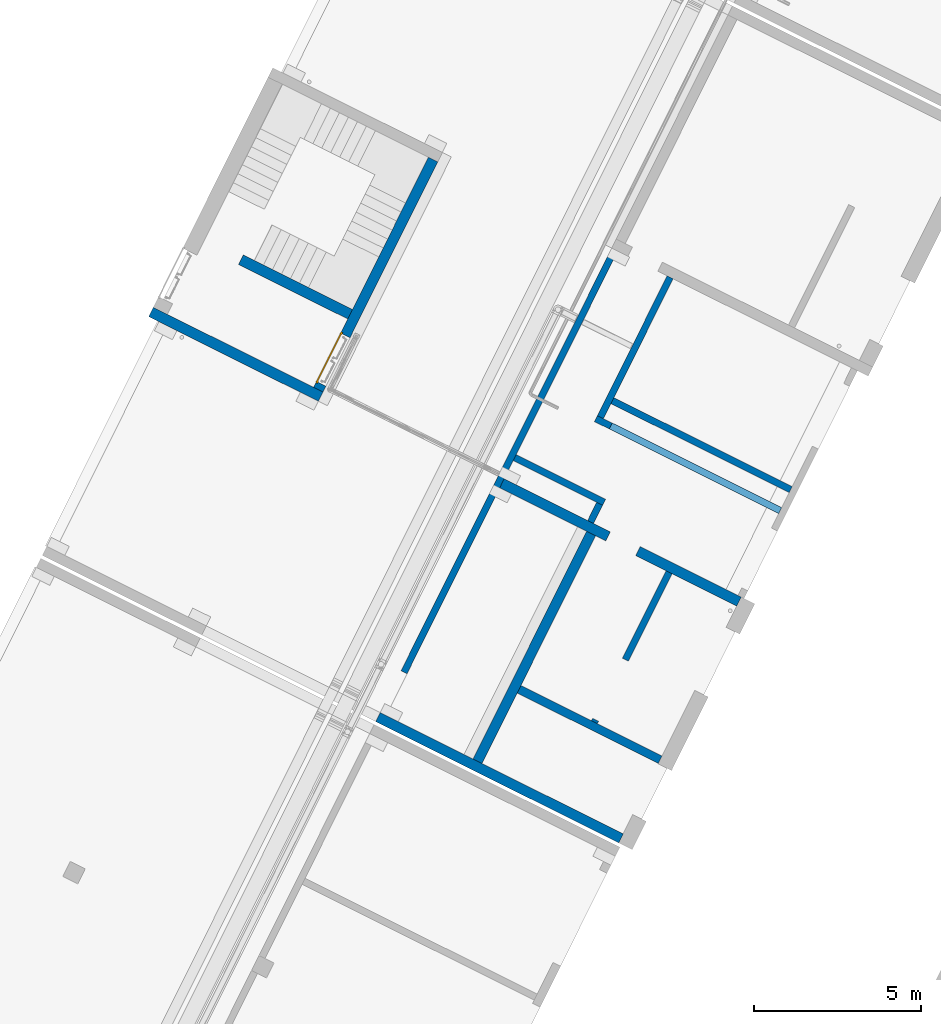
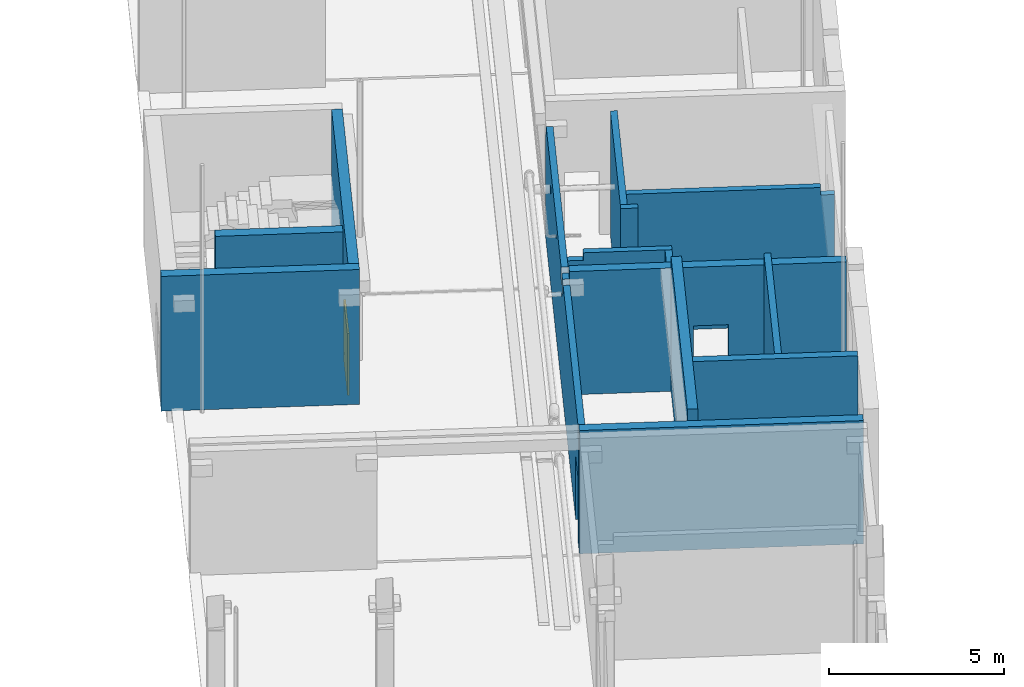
# One storey, part 12 of 91: 15 walls, 1 door, 7 openings.
"""IFC2X3 building model written with IfcOpenShell, lengths in metres."""

from ifc_helpers import new_model, entity, si_unit, converted_unit, derived_unit, direction, frame, frame_2d, origin, origin_2d_with_axis, place, context, subcontext, project, spatial, polyline, rectangle, circle, extrude, clip, bounded_halfspace, faceted_brep, source, transform, mapped, material, layer, layer_set, layer_usage, type_object, type_shapes, element, fill, save


model = new_model("IFC2X3")

# Units and contexts
model_context = context("Model", 3, precision=1e-05, world=origin(), true_north=direction((0.894925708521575, 0.446215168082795)))
context_of_model = context(None, 3, precision=1e-05, world=origin(), true_north=direction((0.894925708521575, 0.446215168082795)))
body_context = subcontext(model_context, "Body", "Model", "MODEL_VIEW")
ifc_project = project(units=[si_unit("LENGTHUNIT", "METRE"), si_unit("AREAUNIT", "SQUARE_METRE"), si_unit("VOLUMEUNIT", "CUBIC_METRE"), converted_unit("PLANEANGLEUNIT", "DEGREE", entity("IfcRatioMeasure", 0.0174532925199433), si_unit("PLANEANGLEUNIT", "RADIAN"), dimensions=[0, 0, 0, 0, 0, 0, 0]), si_unit("MASSUNIT", "GRAM", prefix="KILO"), si_unit("TIMEUNIT", "SECOND"), si_unit("FREQUENCYUNIT", "HERTZ"), si_unit("THERMODYNAMICTEMPERATUREUNIT", "DEGREE_CELSIUS"), derived_unit("THERMALTRANSMITTANCEUNIT", [(si_unit("MASSUNIT", "GRAM", prefix="KILO"), 1), (si_unit("THERMODYNAMICTEMPERATUREUNIT", "KELVIN"), -1), (si_unit("TIMEUNIT", "SECOND"), -3)]), derived_unit("VOLUMETRICFLOWRATEUNIT", [(si_unit("LENGTHUNIT", "METRE"), 3), (si_unit("TIMEUNIT", "SECOND"), -1)]), si_unit("ELECTRICCURRENTUNIT", "AMPERE"), si_unit("ELECTRICVOLTAGEUNIT", "VOLT"), si_unit("POWERUNIT", "WATT"), si_unit("FORCEUNIT", "NEWTON", prefix="KILO"), si_unit("ILLUMINANCEUNIT", "LUX"), si_unit("LUMINOUSFLUXUNIT", "LUMEN"), si_unit("LUMINOUSINTENSITYUNIT", "CANDELA"), si_unit("PRESSUREUNIT", "PASCAL")], contexts=[model_context, context_of_model])

# Site, building, storey
site_placement = place(None, frame((218.228324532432, 584.720189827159, 0.0), z_axis=(0.0, 0.0, 1.0), x_axis=(0.446215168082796, 0.894925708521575, 0.0)))
site = spatial("IfcSite", under=ifc_project, at=site_placement, Name="Default", CompositionType="ELEMENT")
building_placement = place(site_placement, origin())
building = spatial("IfcBuilding", under=site, at=building_placement, CompositionType="ELEMENT")
storey_placement = place(building_placement, origin())
storey = spatial("IfcBuildingStorey", under=building, at=storey_placement, Name="0 - Piano Terra", CompositionType="ELEMENT", Elevation=0.0)

# Wall
ifc_material_1 = material(Name="Default - Calcestruzzo")
ifc_layer_1 = layer(ifc_material_1, 0.3)
ifc_material_2 = material(Name="Intonaco - Bianco")
ifc_layer_2 = layer(ifc_material_2, 0.01)
ifc_layer_set_1 = layer_set([ifc_layer_1, ifc_layer_2], Name="Muro di base:Setto CA rivestito int - 31 cm")
ifc_layer_usage_1 = layer_usage(ifc_layer_set_1, "AXIS2", "NEGATIVE", 0.155)
wall_type_1 = type_object("IfcWallType", Name="Muro di base:Setto CA rivestito int - 31 cm", PredefinedType="STANDARD", material=ifc_layer_set_1)
wall_1_placement = place(storey_placement, frame((-4.83078502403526, 0.798921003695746, 0.0), z_axis=(0.0, 0.0, 1.0), x_axis=(0.0, 1.0, 0.0)))
element("IfcWallStandardCase", 1, at=wall_1_placement, inside=storey, type_object=wall_type_1, material=ifc_layer_usage_1, Name="Muro di base:Setto CA rivestito int - 31 cm", ObjectType="Muro di base:Setto CA rivestito int - 31 cm", context=body_context, shape_type="SweptSolid", body=[
    extrude(rectangle(XDim=5.65999999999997, YDim=0.31, at=frame_2d((2.82999999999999, 0.0), x_axis=(-1.0, 0.0))), origin(), (0.0, 0.0, 1.0), 4.69),
])

# Wall, opening, door
ifc_layer_usage_2 = layer_usage(ifc_layer_set_1, "AXIS2", "NEGATIVE", 0.155)
wall_2_placement = place(storey_placement, frame((3.004214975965, 0.953921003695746, 0.0), z_axis=(0.0, 0.0, 1.0), x_axis=(-1.0, 0.0, 0.0)))
wall_2 = element("IfcWallStandardCase", 2, at=wall_2_placement, inside=storey, type_object=wall_type_1, material=ifc_layer_usage_2, Name="Muro di base:Setto CA rivestito int - 31 cm", ObjectType="Muro di base:Setto CA rivestito int - 31 cm", context=body_context, shape_type="SweptSolid", body=[
    extrude(rectangle(XDim=7.68000000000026, YDim=0.31, at=frame_2d((3.84000000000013, 0.0), x_axis=(-1.0, 0.0))), origin(), (0.0, 0.0, 1.0), 4.69),
])
opening_1_placement = place(wall_2_placement, frame((7.53000000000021, 0.455, 0.0), z_axis=(0.0, 0.0, 1.0), x_axis=(-1.0, 0.0, 0.0)))
opening_1 = element("IfcOpeningElement", 3, at=opening_1_placement, cuts=wall_2, Name="Muro di base:Setto CA rivestito int - 31 cm", ObjectType="Opening", context=body_context, shape_type="Brep", body=[
    faceted_brep([(1.6599999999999, 0.0, 2.11000000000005), (1.6599999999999, 0.560000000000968, 2.11000000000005), (0.0399999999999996, 0.560000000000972, 2.11000000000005), (0.0399999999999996, 0.0, 2.11000000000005), (1.6599999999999, 0.91000000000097, 0.0), (1.6599999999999, 0.610000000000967, 0.0), (1.6999999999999, 0.610000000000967, 0.0), (1.6999999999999, 0.560000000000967, 0.0), (1.6599999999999, 0.560000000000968, 0.0), (1.6599999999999, 0.0, 0.0), (0.0399999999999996, 0.0, 0.0), (0.0399999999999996, 0.560000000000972, 0.0), (0.0, 0.560000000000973, 0.0), (0.0, 0.610000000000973, 0.0), (0.0399999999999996, 0.610000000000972, 0.0), (0.0399999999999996, 0.91000000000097, 0.0), (1.6599999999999, 0.91000000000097, 2.11000000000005), (0.0399999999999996, 0.91000000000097, 2.11000000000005), (1.6599999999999, 0.610000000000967, 2.11000000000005), (0.0, 0.610000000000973, 2.15000000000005), (1.6999999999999, 0.610000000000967, 2.15000000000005), (0.0399999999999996, 0.610000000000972, 2.11000000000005), (1.6999999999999, 0.560000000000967, 2.15000000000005), (0.0, 0.560000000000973, 2.15000000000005)], [[[0, 1, 2, 3]], [[4, 5, 6, 7, 8, 9, 10, 11, 12, 13, 14, 15]], [[16, 4, 15, 17]], [[3, 2, 11, 10]], [[3, 10, 9, 0]], [[16, 18, 5, 4]], [[13, 19, 20, 6, 5, 18, 21, 14]], [[11, 2, 1, 8, 7, 22, 23, 12]], [[12, 23, 19, 13]], [[19, 23, 22, 20]], [[20, 22, 7, 6]], [[9, 8, 1, 0]], [[15, 14, 21, 17]], [[17, 21, 18, 16]]]),
])
ifc_material_3 = material(Name="Alluminio")
door_style = type_object("IfcDoorStyle", Name="180x210", ConstructionType="NOTDEFINED", OperationType="DOUBLE_DOOR_SINGLE_SWING", ParameterTakesPrecedence=False, Sizeable=False, material=ifc_material_3)
shared_shape = source(origin(), body_context, "Body", "Brep", [
    faceted_brep([(0.0499999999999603, 0.620000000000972, 0.0), (0.0499999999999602, 0.580000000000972, 0.0), (0.0649999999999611, 0.580000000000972, 0.0), (0.0649999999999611, 0.560000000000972, 0.0), (0.0, 0.560000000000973, 0.0), (0.0, 0.620000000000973, 0.0), (0.0499999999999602, 0.620000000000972, 2.10000000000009), (0.0499999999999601, 0.580000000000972, 2.10000000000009), (1.64999999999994, 0.580000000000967, 2.10000000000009), (1.64999999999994, 0.580000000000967, 0.0), (1.63499999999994, 0.580000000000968, 0.0), (1.63499999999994, 0.580000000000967, 2.08500000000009), (0.0649999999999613, 0.580000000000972, 2.08500000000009), (0.0649999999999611, 0.560000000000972, 2.08500000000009), (1.63499999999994, 0.560000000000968, 2.08500000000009), (1.63499999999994, 0.560000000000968, 0.0), (1.6999999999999, 0.560000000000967, 0.0), (1.6999999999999, 0.560000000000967, 2.15000000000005), (0.0, 0.560000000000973, 2.15000000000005), (0.0, 0.620000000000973, 2.15000000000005), (1.6999999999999, 0.620000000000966, 2.15000000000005), (1.6999999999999, 0.620000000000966, 0.0), (1.64999999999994, 0.620000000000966, 0.0), (1.64999999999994, 0.620000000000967, 2.10000000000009)], [[[0, 1, 2, 3, 4, 5]], [[1, 0, 6, 7]], [[2, 1, 7, 8, 9, 10, 11, 12]], [[3, 2, 12, 13]], [[4, 3, 13, 14, 15, 16, 17, 18]], [[5, 4, 18, 19]], [[0, 5, 19, 20, 21, 22, 23, 6]], [[8, 23, 22, 9]], [[22, 21, 16, 15, 10, 9]], [[14, 11, 10, 15]], [[20, 17, 16, 21]], [[7, 6, 23, 8]], [[13, 12, 11, 14]], [[19, 18, 17, 20]]]),
    faceted_brep([(0.849999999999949, 0.62000000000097, 2.1), (0.84999999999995, 0.62000000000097, 0.0), (0.0499999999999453, 0.620000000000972, 0.0), (0.0499999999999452, 0.620000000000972, 2.1), (0.849999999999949, 0.58000000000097, 2.1), (0.049999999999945, 0.580000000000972, 2.1), (0.0499999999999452, 0.580000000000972, 0.0), (0.849999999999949, 0.58000000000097, 0.0)], [[[0, 1, 2, 3]], [[4, 5, 6, 7]], [[1, 0, 4, 7]], [[2, 1, 7, 6]], [[3, 2, 6, 5]], [[0, 3, 5, 4]]]),
    faceted_brep([(1.64999999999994, 0.620000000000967, 0.0), (0.84999999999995, 0.62000000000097, 0.0), (0.849999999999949, 0.62000000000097, 2.1), (1.64999999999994, 0.620000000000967, 2.1), (1.64999999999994, 0.580000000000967, 0.0), (1.64999999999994, 0.580000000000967, 2.1), (0.849999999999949, 0.58000000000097, 2.1), (0.849999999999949, 0.58000000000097, 0.0)], [[[0, 1, 2, 3]], [[4, 5, 6, 7]], [[1, 0, 4, 7]], [[2, 1, 7, 6]], [[3, 2, 6, 5]], [[0, 3, 5, 4]]]),
    faceted_brep([(0.864999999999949, 0.622999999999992, 2.1), (0.834999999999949, 0.622999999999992, 2.1), (0.834999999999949, 0.619999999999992, 2.1), (0.864999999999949, 0.619999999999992, 2.1), (0.864999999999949, 0.622999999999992, 0.0), (0.864999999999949, 0.619999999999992, 0.0), (0.834999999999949, 0.619999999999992, 0.0), (0.834999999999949, 0.622999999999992, 0.0)], [[[0, 1, 2, 3]], [[4, 5, 6, 7]], [[1, 0, 4, 7]], [[2, 1, 7, 6]], [[3, 2, 6, 5]], [[0, 3, 5, 4]]]),
    faceted_brep([(1.6599999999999, 0.630000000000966, 1.85000000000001), (1.64999999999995, 0.630000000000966, 1.85000000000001), (1.63499999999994, 0.619999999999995, 1.85000000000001), (1.6599999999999, 0.619999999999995, 1.85000000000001), (1.6599999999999, 0.630000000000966, 1.80000000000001), (1.64999999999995, 0.630000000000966, 1.80000000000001), (1.63499999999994, 0.619999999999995, 1.80000000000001), (1.6599999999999, 0.619999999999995, 1.80000000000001)], [[[0, 1, 2, 3]], [[1, 0, 4, 5]], [[2, 1, 5, 6]], [[3, 2, 6, 7]], [[0, 3, 7, 4]], [[4, 7, 6, 5]]]),
    faceted_brep([(0.0399999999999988, 0.630000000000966, 1.80000000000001), (0.0499999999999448, 0.630000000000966, 1.80000000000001), (0.0649999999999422, 0.620000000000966, 1.80000000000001), (0.0399999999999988, 0.620000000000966, 1.80000000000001), (0.0399999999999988, 0.620000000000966, 1.85000000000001), (0.0399999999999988, 0.630000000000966, 1.85000000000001), (0.0649999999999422, 0.620000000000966, 1.85000000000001), (0.0499999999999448, 0.630000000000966, 1.85000000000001)], [[[0, 1, 2, 3]], [[4, 5, 0, 3]], [[6, 4, 3, 2]], [[7, 6, 2, 1]], [[5, 7, 1, 0]], [[5, 4, 6, 7]]]),
    faceted_brep([(1.6599999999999, 0.630000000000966, 1.80000000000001), (1.64999999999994, 0.630000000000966, 1.80000000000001), (1.64999999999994, 0.620000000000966, 1.80000000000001), (1.6599999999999, 0.620000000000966, 1.80000000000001), (1.6599999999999, 0.630000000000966, 1.75000000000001), (1.64999999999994, 0.630000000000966, 1.75000000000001), (1.64999999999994, 0.620000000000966, 1.75000000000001), (1.6599999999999, 0.620000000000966, 1.75000000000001)], [[[0, 1, 2, 3]], [[1, 0, 4, 5]], [[2, 1, 5, 6]], [[3, 2, 6, 7]], [[0, 3, 7, 4]], [[4, 7, 6, 5]]]),
    faceted_brep([(0.0499999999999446, 0.630000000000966, 1.75000000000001), (0.0499999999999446, 0.620000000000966, 1.75000000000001), (0.04, 0.620000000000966, 1.75000000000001), (0.04, 0.630000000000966, 1.75000000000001), (0.04, 0.630000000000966, 1.80000000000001), (0.0499999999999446, 0.630000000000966, 1.80000000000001), (0.04, 0.620000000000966, 1.80000000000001), (0.0499999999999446, 0.620000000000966, 1.80000000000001)], [[[0, 1, 2, 3]], [[4, 5, 0, 3]], [[6, 4, 3, 2]], [[7, 6, 2, 1]], [[5, 7, 1, 0]], [[5, 4, 6, 7]]]),
    faceted_brep([(0.0399999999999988, 0.620000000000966, 0.349999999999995), (0.0649999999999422, 0.620000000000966, 0.349999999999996), (0.0499999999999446, 0.630000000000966, 0.349999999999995), (0.0399999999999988, 0.630000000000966, 0.349999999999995), (0.0399999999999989, 0.620000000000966, 0.299999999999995), (0.0649999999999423, 0.620000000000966, 0.299999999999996), (0.0499999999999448, 0.630000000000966, 0.299999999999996), (0.0399999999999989, 0.630000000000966, 0.299999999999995)], [[[0, 1, 2, 3]], [[1, 0, 4, 5]], [[2, 1, 5, 6]], [[3, 2, 6, 7]], [[0, 3, 7, 4]], [[4, 7, 6, 5]]]),
    faceted_brep([(1.6599999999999, 0.630000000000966, 0.300000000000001), (1.6599999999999, 0.619999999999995, 0.300000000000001), (1.63499999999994, 0.619999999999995, 0.300000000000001), (1.64999999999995, 0.630000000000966, 0.300000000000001), (1.64999999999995, 0.630000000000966, 0.350000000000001), (1.6599999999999, 0.630000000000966, 0.350000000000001), (1.63499999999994, 0.619999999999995, 0.350000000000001), (1.6599999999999, 0.619999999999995, 0.350000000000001)], [[[0, 1, 2, 3]], [[4, 5, 0, 3]], [[6, 4, 3, 2]], [[7, 6, 2, 1]], [[5, 7, 1, 0]], [[5, 4, 6, 7]]]),
    faceted_brep([(1.64999999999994, 0.630000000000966, 0.300000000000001), (1.64999999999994, 0.620000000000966, 0.300000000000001), (1.6599999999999, 0.620000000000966, 0.300000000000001), (1.6599999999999, 0.630000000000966, 0.300000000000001), (1.64999999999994, 0.630000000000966, 0.250000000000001), (1.64999999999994, 0.620000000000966, 0.250000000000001), (1.6599999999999, 0.620000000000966, 0.250000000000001), (1.6599999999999, 0.630000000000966, 0.250000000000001)], [[[0, 1, 2, 3]], [[1, 0, 4, 5]], [[2, 1, 5, 6]], [[3, 2, 6, 7]], [[0, 3, 7, 4]], [[4, 7, 6, 5]]]),
    faceted_brep([(0.049999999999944, 0.630000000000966, 0.249999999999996), (0.049999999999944, 0.620000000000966, 0.249999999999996), (0.039999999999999, 0.620000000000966, 0.249999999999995), (0.039999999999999, 0.630000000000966, 0.249999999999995), (0.0399999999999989, 0.630000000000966, 0.299999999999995), (0.0499999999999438, 0.630000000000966, 0.299999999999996), (0.0399999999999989, 0.620000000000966, 0.299999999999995), (0.0499999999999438, 0.620000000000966, 0.299999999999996)], [[[0, 1, 2, 3]], [[4, 5, 0, 3]], [[6, 4, 3, 2]], [[7, 6, 2, 1]], [[5, 7, 1, 0]], [[5, 4, 6, 7]]]),
])
type_shapes(door_style, [shared_shape])
door_placement = place(storey_placement, frame((-4.52578502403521, 0.498921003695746, 0.0)))
door = element("IfcDoor", 4, at=door_placement, inside=storey, type_object=door_style, material=ifc_material_3, Name="120-180x210 Uscita di sicurezza doppia:180x210", ObjectType="180x210", OverallHeight=2.15000000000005, OverallWidth=1.6999999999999, context=body_context, shape_type="MappedRepresentation", body=[
    mapped(shared_shape, transform((0.0, 0.0, 0.0), scale=1.0)),
])
fill(opening_1, door)

# Wall, opening
ifc_layer_3 = layer(ifc_material_1, 0.3)
ifc_layer_set_2 = layer_set([ifc_layer_3], Name="Muro di base:Setto CA - 30 cm")
ifc_layer_usage_3 = layer_usage(ifc_layer_set_2, "AXIS2", "NEGATIVE", 0.15)
wall_type_2 = type_object("IfcWallType", Name="Muro di base:Setto CA - 30 cm", PredefinedType="STANDARD", material=ifc_layer_set_2)
wall_3_placement = place(storey_placement, frame((-4.73437167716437, -5.2010789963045, 0.0), z_axis=(0.0, 0.0, 1.0), x_axis=(0.0, -1.0, 0.0)))
wall_3 = element("IfcWallStandardCase", 5, at=wall_3_placement, inside=storey, type_object=wall_type_2, material=ifc_layer_usage_3, Name="Muro di base:Setto CA - 30 cm", ObjectType="Muro di base:Setto CA - 30 cm", context=body_context, shape_type="Clipping", body=[
    clip(extrude(rectangle(XDim=7.91, YDim=0.3, at=frame_2d((3.955, 0.0), x_axis=(-1.0, 0.0))), origin(), (0.0, 0.0, 1.0), 4.29), bounded_halfspace(frame((0.0, -0.15, 4.29), z_axis=(0.0, 0.0, -1.0), x_axis=(-1.0, 0.0, 0.0)), True, frame((0.0, -0.15, 4.29)), polyline([(0.0, 0.0), (2.89999999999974, 0.0), (7.91, 0.0), (7.91, 0.150000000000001), (7.91, 0.3), (0.0, 0.3), (0.0, 0.0)]))),
])
opening_2_placement = place(wall_3_placement, frame((4.53999999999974, -1.674, 0.0)))
element("IfcOpeningElement", 6, at=opening_2_placement, cuts=wall_3, Name="Muro di base:Setto CA - 30 cm", ObjectType="Opening", context=body_context, shape_type="SweptSolid", body=[
    extrude(rectangle(XDim=2.25, YDim=1.0, at=frame_2d((0.0, 0.0), x_axis=(0.0, 1.0))), frame((-0.5, 0.0, 1.125), z_axis=(0.0, 1.0, 0.0), x_axis=(1.0, 0.0, 0.0)), (0.0, 0.0, 1.0), 3.048),
])

# Walls
ifc_layer_usage_4 = layer_usage(ifc_layer_set_2, "AXIS2", "NEGATIVE", 0.15)
wall_4_placement = place(storey_placement, frame((-12.4843716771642, -8.25107899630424, 0.0)))
element("IfcWallStandardCase", 7, at=wall_4_placement, inside=storey, type_object=wall_type_2, material=ifc_layer_usage_4, Name="Muro di base:Setto CA - 30 cm", ObjectType="Muro di base:Setto CA - 30 cm", context=body_context, shape_type="SweptSolid", body=[
    extrude(rectangle(XDim=7.59999999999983, YDim=0.299999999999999, at=frame_2d((3.79999999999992, 0.0), x_axis=(-1.0, 0.0))), origin(), (0.0, 0.0, 1.0), 4.69),
])
ifc_layer_usage_5 = layer_usage(ifc_layer_set_2, "AXIS2", "NEGATIVE", 0.15)
wall_5_placement = place(storey_placement, frame((-12.6343716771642, -5.00107899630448, 0.0), z_axis=(0.0, 0.0, 1.0), x_axis=(0.0, -1.0, 0.0)))
element("IfcWallStandardCase", 8, at=wall_5_placement, inside=storey, type_object=wall_type_2, material=ifc_layer_usage_5, Name="Muro di base:Setto CA - 30 cm", ObjectType="Muro di base:Setto CA - 30 cm", context=body_context, shape_type="Clipping", body=[
    clip(extrude(rectangle(XDim=8.11, YDim=0.300000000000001, at=frame_2d((4.055, 0.0), x_axis=(-1.0, 0.0))), origin(), (0.0, 0.0, 1.0), 4.29), bounded_halfspace(frame((0.0, -0.149999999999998, 4.29), z_axis=(0.0, 0.0, -1.0), x_axis=(-1.0, 0.0, 0.0)), True, frame((0.0, -0.149999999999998, 4.29)), polyline([(0.0, 0.0), (8.11, 0.0), (8.11, 0.299999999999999), (3.09999999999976, 0.299999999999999), (0.0, 0.299999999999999), (0.0, 0.0)]))),
])

# Wall, opening
ifc_material_4 = material(Name="Sabbia e Calcestruzzo")
ifc_layer_4 = layer(ifc_material_4, 0.2)
ifc_layer_set_3 = layer_set([ifc_layer_4], Name="Muro di base:Blocchetti - 20 cm")
ifc_layer_usage_6 = layer_usage(ifc_layer_set_3, "AXIS2", "NEGATIVE", 0.1)
wall_type_3 = type_object("IfcWallType", Name="Muro di base:Blocchetti - 20 cm", PredefinedType="STANDARD", material=ifc_layer_set_3)
wall_6_placement = place(storey_placement, frame((-9.88377059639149, -10.8510789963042, 0.0)))
wall_6 = element("IfcWallStandardCase", 9, at=wall_6_placement, inside=storey, type_object=wall_type_3, material=ifc_layer_usage_6, Name="Muro di base:Blocchetti - 20 cm", ObjectType="Muro di base:Blocchetti - 20 cm", context=body_context, shape_type="SweptSolid", body=[
    extrude(rectangle(XDim=4.99939891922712, YDim=0.199999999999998, at=frame_2d((2.49969945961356, 0.0), x_axis=(-1.0, 0.0))), origin(), (0.0, 0.0, 1.0), 4.69),
])
opening_3_placement = place(wall_6_placement, frame((0.0800000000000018, -1.42400000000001, 0.0)))
element("IfcOpeningElement", 10, at=opening_3_placement, cuts=wall_6, Name="Muro di base:Blocchetti - 20 cm", ObjectType="Opening", context=body_context, shape_type="SweptSolid", body=[
    extrude(rectangle(XDim=3.2, YDim=2.0, at=origin_2d_with_axis()), frame((1.0, 0.0, 1.6), z_axis=(0.0, 1.0, 0.0), x_axis=(0.0, 0.0, -1.0)), (0.0, 0.0, 1.0), 3.048),
])

# Walls
ifc_layer_usage_7 = layer_usage(ifc_layer_set_3, "AXIS2", "NEGATIVE", 0.1)
wall_7_placement = place(storey_placement, frame((-1.05167493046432, -13.0010789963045, 0.0), z_axis=(0.0, 0.0, 1.0), x_axis=(0.0, 1.0, 0.0)))
element("IfcWallStandardCase", 11, at=wall_7_placement, inside=storey, type_object=wall_type_3, material=ifc_layer_usage_7, Name="Muro di base:Blocchetti - 20 cm", ObjectType="Muro di base:Blocchetti - 20 cm", context=body_context, shape_type="Clipping", body=[
    clip(clip(extrude(rectangle(XDim=5.95045960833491, YDim=0.2, at=frame_2d((2.97522980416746, 0.0), x_axis=(-1.0, 0.0))), origin(), (0.0, 0.0, 1.0), 4.29), bounded_halfspace(frame((0.0, -0.1, 4.03), z_axis=(0.0, 0.0, -1.0), x_axis=(-1.0, 0.0, 0.0)), True, frame((0.0, -0.1, 4.03)), polyline([(0.0, 0.0), (0.399999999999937, 0.0), (0.399999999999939, 0.2), (0.0, 0.2), (0.0, 0.0)]))), bounded_halfspace(frame((0.399999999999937, -0.1, 4.29), z_axis=(0.0, 0.0, -1.0), x_axis=(1.0, 0.0, 0.0)), True, frame((0.399999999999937, -0.1, 4.29)), polyline([(0.0, 0.0), (5.55045960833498, 0.0), (5.55045960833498, 0.200000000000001), (0.0, 0.2), (0.0, 0.0)]))),
])
ifc_layer_usage_8 = layer_usage(ifc_layer_set_3, "AXIS2", "NEGATIVE", 0.1)
wall_8_placement = place(storey_placement, frame((-1.75122096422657, -13.0010789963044, 0.0), z_axis=(0.0, 0.0, 1.0), x_axis=(0.0, 1.0, 0.0)))
element("IfcWallStandardCase", 12, at=wall_8_placement, inside=storey, type_object=wall_type_3, material=ifc_layer_usage_8, Name="Muro di base:Blocchetti - 20 cm", ObjectType="Muro di base:Blocchetti - 20 cm", context=body_context, shape_type="SweptSolid", body=[
    extrude(rectangle(XDim=5.65484559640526, YDim=0.2, at=frame_2d((2.82742279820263, 0.0), x_axis=(-1.0, 0.0))), origin(), (0.0, 0.0, 1.0), 0.66),
])
ifc_layer_usage_9 = layer_usage(ifc_layer_set_3, "AXIS2", "NEGATIVE", 0.1)
wall_9_placement = place(storey_placement, frame((-3.87683558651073, -8.18564778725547, 0.0), z_axis=(0.0, 0.0, 1.0), x_axis=(0.0, 1.0, 0.0)))
element("IfcWallStandardCase", 13, at=wall_9_placement, inside=storey, type_object=wall_type_3, material=ifc_layer_usage_9, Name="Muro di base:Blocchetti - 20 cm", ObjectType="Muro di base:Blocchetti - 20 cm", context=body_context, shape_type="Clipping", body=[
    clip(clip(extrude(rectangle(XDim=2.98456879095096, YDim=0.2, at=frame_2d((1.49228439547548, 0.0), x_axis=(-1.0, 0.0))), origin(), (0.0, 0.0, 1.0), 4.29), bounded_halfspace(frame((2.53456879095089, 0.1, 4.03), z_axis=(0.0, 0.0, -1.0), x_axis=(0.0, -1.0, 0.0)), True, frame((2.53456879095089, 0.1, 4.03), z_axis=(0.0, 0.0, -1.0), x_axis=(0.0, -1.0, 0.0)), polyline([(0.0, 0.0), (0.0, -0.450000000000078), (0.199999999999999, -0.450000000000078), (0.2, 0.0), (0.0, 0.0)]))), bounded_halfspace(frame((2.53456879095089, -0.1, 4.03), z_axis=(-1.0, 0.0, 0.0), x_axis=(0.0, -1.0, 0.0)), True, frame((2.53456879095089, -0.1, 4.03), z_axis=(-1.0, 0.0, 0.0), x_axis=(0.0, -1.0, 0.0)), polyline([(0.0, 0.0), (0.0, 0.260000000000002), (-0.2, 0.260000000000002), (-0.2, 0.0), (0.0, 0.0)]))),
])
ifc_layer_usage_10 = layer_usage(ifc_layer_set_3, "AXIS2", "NEGATIVE", 0.1)
wall_10_placement = place(storey_placement, frame((-1.65122096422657, -6.95061938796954, 0.0)))
element("IfcWallStandardCase", 14, at=wall_10_placement, inside=storey, type_object=wall_type_3, material=ifc_layer_usage_10, Name="Muro di base:Blocchetti - 20 cm", ObjectType="Muro di base:Blocchetti - 20 cm", context=body_context, shape_type="SweptSolid", body=[
    extrude(rectangle(XDim=4.66543594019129, YDim=0.2, at=frame_2d((2.33271797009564, -6.93889390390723e-17), x_axis=(-1.0, 0.0))), origin(), (0.0, 0.0, 1.0), 4.29),
])
ifc_layer_usage_11 = layer_usage(ifc_layer_set_3, "AXIS2", "NEGATIVE", 0.1)
wall_11_placement = place(storey_placement, frame((-4.58437167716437, -8.08564778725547, 0.0)))
element("IfcWallStandardCase", 15, at=wall_11_placement, inside=storey, type_object=wall_type_3, material=ifc_layer_usage_11, Name="Muro di base:Blocchetti - 20 cm", ObjectType="Muro di base:Blocchetti - 20 cm", context=body_context, shape_type="Clipping", body=[
    clip(extrude(rectangle(XDim=0.607536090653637, YDim=0.2, at=frame_2d((0.303768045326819, 4.44089209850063e-16), x_axis=(-1.0, 0.0))), origin(), (0.0, 0.0, 1.0), 4.29), bounded_halfspace(frame((0.0, -0.1, 4.29), z_axis=(0.0, 0.0, -1.0), x_axis=(0.0, 1.0, 0.0)), True, frame((0.0, -0.1, 4.29)), polyline([(0.0, 0.0), (0.607536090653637, 0.0), (0.607536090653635, 0.200000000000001), (0.0, 0.2), (0.0, 0.0)]))),
])
ifc_layer_usage_12 = layer_usage(ifc_layer_set_3, "AXIS2", "NEGATIVE", 0.1)
wall_12_placement = place(storey_placement, frame((-1.75122096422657, -7.34623339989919, 0.0), z_axis=(0.0, 0.0, 1.0), x_axis=(0.0, 1.0, 0.0)))
element("IfcWallStandardCase", 16, at=wall_12_placement, inside=storey, type_object=wall_type_3, material=ifc_layer_usage_12, Name="Muro di base:Blocchetti - 20 cm", ObjectType="Muro di base:Blocchetti - 20 cm", context=body_context, shape_type="Clipping", body=[
    clip(extrude(rectangle(XDim=0.49561401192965, YDim=0.2, at=frame_2d((0.247807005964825, 0.0), x_axis=(-1.0, 0.0))), origin(), (0.0, 0.0, 1.0), 4.29), bounded_halfspace(frame((0.0, -0.1, 4.29), z_axis=(0.0, 0.0, -1.0), x_axis=(1.0, 0.0, 0.0)), True, frame((0.0, -0.1, 4.29)), polyline([(0.0, 0.0), (0.29561401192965, 0.0), (0.49561401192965, 0.0), (0.49561401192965, 0.199999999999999), (0.0, 0.2), (0.0, 0.0)]))),
])

# Wall, openings
ifc_layer_usage_13 = layer_usage(ifc_layer_set_3, "AXIS2", "NEGATIVE", 0.1)
wall_13_placement = place(storey_placement, frame((-12.4843716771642, -5.10107899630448, 0.0)))
wall_13 = element("IfcWallStandardCase", 17, at=wall_13_placement, inside=storey, type_object=wall_type_3, material=ifc_layer_usage_13, Name="Muro di base:Blocchetti - 20 cm", ObjectType="Muro di base:Blocchetti - 20 cm", context=body_context, shape_type="Clipping", body=[
    clip(clip(clip(clip(clip(clip(extrude(rectangle(XDim=15.4985866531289, YDim=0.2, at=frame_2d((7.74929332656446, 0.0), x_axis=(-1.0, 0.0))), origin(), (0.0, 0.0, 1.0), 4.03), bounded_halfspace(frame((0.300000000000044, -0.1, 3.63), z_axis=(0.0, 0.0, -1.0), x_axis=(1.0, 0.0, 0.0)), True, frame((0.300000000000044, -0.1, 3.63), z_axis=(0.0, 0.0, -1.0), x_axis=(1.0, 0.0, 0.0)), polyline([(0.0, 0.0), (-0.300000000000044, 0.0), (-0.300000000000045, -0.2), (0.0, -0.199999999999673), (0.0, 0.0)]))), bounded_halfspace(frame((0.300000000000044, 0.099999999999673, 3.63), z_axis=(1.0, 0.0, 0.0), x_axis=(0.0, 0.0, -1.0)), True, frame((0.300000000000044, 0.099999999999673, 3.63), z_axis=(1.0, 0.0, 0.0), x_axis=(0.0, 0.0, -1.0)), polyline([(0.0, 0.0), (-0.4, 0.0), (-0.4, -0.199999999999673), (0.0, -0.199999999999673), (0.0, 0.0)]))), bounded_halfspace(frame((7.29999999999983, 0.099999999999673, 3.63), z_axis=(0.0, 0.0, -1.0), x_axis=(1.0, 0.0, 0.0)), True, frame((7.29999999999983, 0.099999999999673, 3.63), z_axis=(0.0, 0.0, -1.0), x_axis=(1.0, 0.0, 0.0)), polyline([(0.0, 0.0), (0.300000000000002, 0.0), (0.300000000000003, 0.199999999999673), (0.0, 0.199999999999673), (0.0, 0.0)]))), bounded_halfspace(frame((7.89999999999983, 0.099999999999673, 3.63), z_axis=(0.0, 0.0, -1.0), x_axis=(1.0, 0.0, 0.0)), True, frame((7.89999999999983, 0.099999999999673, 3.63), z_axis=(0.0, 0.0, -1.0), x_axis=(1.0, 0.0, 0.0)), polyline([(0.0, 0.0), (0.300000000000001, 0.0), (0.300000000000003, 0.199999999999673), (0.0, 0.199999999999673), (0.0, 0.0)]))), bounded_halfspace(frame((15.1985866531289, 0.099999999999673, 3.63), z_axis=(0.0, 0.0, -1.0), x_axis=(1.0, 0.0, 0.0)), True, frame((15.1985866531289, 0.099999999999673, 3.63), z_axis=(0.0, 0.0, -1.0), x_axis=(1.0, 0.0, 0.0)), polyline([(0.0, 0.0), (0.300000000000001, 0.0), (0.300000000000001, 0.199999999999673), (0.0, 0.199999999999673), (0.0, 0.0)]))), bounded_halfspace(frame((15.1985866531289, -0.1, 3.63), z_axis=(-1.0, 0.0, 0.0), x_axis=(0.0, 0.0, -1.0)), True, frame((15.1985866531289, -0.1, 3.63), z_axis=(-1.0, 0.0, 0.0), x_axis=(0.0, 0.0, -1.0)), polyline([(0.0, 0.0), (-0.4, 0.0), (-0.4, -0.2), (0.0, -0.199999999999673), (0.0, 0.0)]))),
])
opening_4_placement = place(wall_13_placement, frame((0.299999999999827, -1.624, 0.0)))
element("IfcOpeningElement", 18, at=opening_4_placement, cuts=wall_13, Name="Muro di base:Blocchetti - 20 cm", ObjectType="Opening", context=body_context, shape_type="SweptSolid", body=[
    extrude(rectangle(XDim=2.2, YDim=1.1, at=frame_2d((-1.11022302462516e-15, 0.0), x_axis=(0.0, 1.0))), frame((0.550000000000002, 0.0, 1.1), z_axis=(0.0, 1.0, 0.0), x_axis=(1.0, 0.0, 0.0)), (0.0, 0.0, 1.0), 3.048),
])
opening_5_placement = place(wall_13_placement, origin())
element("IfcOpeningElement", 19, at=opening_5_placement, cuts=wall_13, Name="Muro di base:Blocchetti - 20 cm", ObjectType="Opening", context=body_context, shape_type="SweptSolid", body=[
    extrude(circle(Radius=0.15, at=frame_2d((0.0, -5.41433564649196e-16), x_axis=(1.0, 0.0))), frame((13.1416735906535, 0.1, 3.3), z_axis=(0.0, -1.0, 0.0), x_axis=(-1.0, 0.0, 0.0)), (0.0, 0.0, 1.0), 0.2),
])
opening_6_placement = place(wall_13_placement, origin())
element("IfcOpeningElement", 20, at=opening_6_placement, cuts=wall_13, Name="Muro di base:Blocchetti - 20 cm", ObjectType="Opening", context=body_context, shape_type="SweptSolid", body=[
    extrude(circle(Radius=0.0649999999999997, at=origin_2d_with_axis()), frame((10.5075360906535, 0.1, 3.5), z_axis=(0.0, -1.0, 0.0), x_axis=(-1.0, 0.0, 0.0)), (0.0, 0.0, 1.0), 0.2),
])
opening_7_placement = place(wall_13_placement, origin())
element("IfcOpeningElement", 21, at=opening_7_placement, cuts=wall_13, Name="Muro di base:Blocchetti - 20 cm", ObjectType="Opening", context=body_context, shape_type="SweptSolid", body=[
    extrude(circle(Radius=0.0650000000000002, at=origin_2d_with_axis()), frame((7.96249969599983, 0.1, 3.2625), z_axis=(0.0, -1.0, 0.0), x_axis=(-1.0, 0.0, 0.0)), (0.0, 0.0, 1.0), 0.2),
])

# Walls
ifc_layer_5 = layer(ifc_material_4, 0.25)
ifc_layer_set_4 = layer_set([ifc_layer_5], Name="Muro di base:Blocchetti - 25 cm")
ifc_layer_usage_14 = layer_usage(ifc_layer_set_4, "AXIS2", "NEGATIVE", 0.125)
wall_type_4 = type_object("IfcWallType", Name="Muro di base:Blocchetti - 25 cm", PredefinedType="STANDARD", material=ifc_layer_set_4)
wall_14_placement = place(storey_placement, frame((-10.0087705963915, -13.1110789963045, 0.0), z_axis=(0.0, 0.0, 1.0), x_axis=(0.0, 1.0, 0.0)))
element("IfcWallStandardCase", 22, at=wall_14_placement, inside=storey, type_object=wall_type_4, material=ifc_layer_usage_14, Name="Muro di base:Blocchetti - 25 cm", ObjectType="Muro di base:Blocchetti - 25 cm", context=body_context, shape_type="SweptSolid", body=[
    extrude(rectangle(XDim=4.71000000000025, YDim=0.249999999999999, at=frame_2d((2.35500000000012, 0.0), x_axis=(-1.0, 0.0))), origin(), (0.0, 0.0, 1.0), 4.69),
])
ifc_layer_6 = layer(ifc_material_2, 0.01)
ifc_layer_7 = layer(ifc_material_1, 0.3)
ifc_layer_8 = layer(ifc_material_2, 0.01)
ifc_layer_set_5 = layer_set([ifc_layer_6, ifc_layer_7, ifc_layer_8], Name="Muro di base:Setto CA rivestito int - est 32 cm")
ifc_layer_usage_15 = layer_usage(ifc_layer_set_5, "AXIS2", "POSITIVE", -0.16)
wall_type_5 = type_object("IfcWallType", Name="Muro di base:Setto CA rivestito int - est 32 cm", PredefinedType="STANDARD", material=ifc_layer_set_5)
wall_15_placement = place(storey_placement, frame((-2.23578502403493, 4.75392100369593, 0.0), z_axis=(0.0, 0.0, 1.0), x_axis=(0.0, -1.0, 0.0)))
element("IfcWallStandardCase", 23, at=wall_15_placement, inside=storey, type_object=wall_type_5, material=ifc_layer_usage_15, Name="Muro di base:Setto CA rivestito int - est 32 cm", ObjectType="Muro di base:Setto CA rivestito int - est 32 cm", context=body_context, shape_type="Clipping", body=[
    clip(extrude(rectangle(XDim=3.64500000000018, YDim=0.32, at=frame_2d((1.82250000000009, 0.0), x_axis=(-1.0, 0.0))), origin(), (0.0, 0.0, 1.0), 4.2), bounded_halfspace(frame((0.0, -0.16, 4.2), z_axis=(0.0, 0.0, -1.0), x_axis=(0.0, -1.0, 0.0)), True, frame((0.0, -0.16, 4.2)), polyline([(0.0, 0.0), (3.64500000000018, 0.0), (3.64500000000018, 0.320000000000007), (0.36484302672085, 0.32), (0.0, 0.32), (0.0, 0.0)]))),
])

save(model, "model.ifc")
